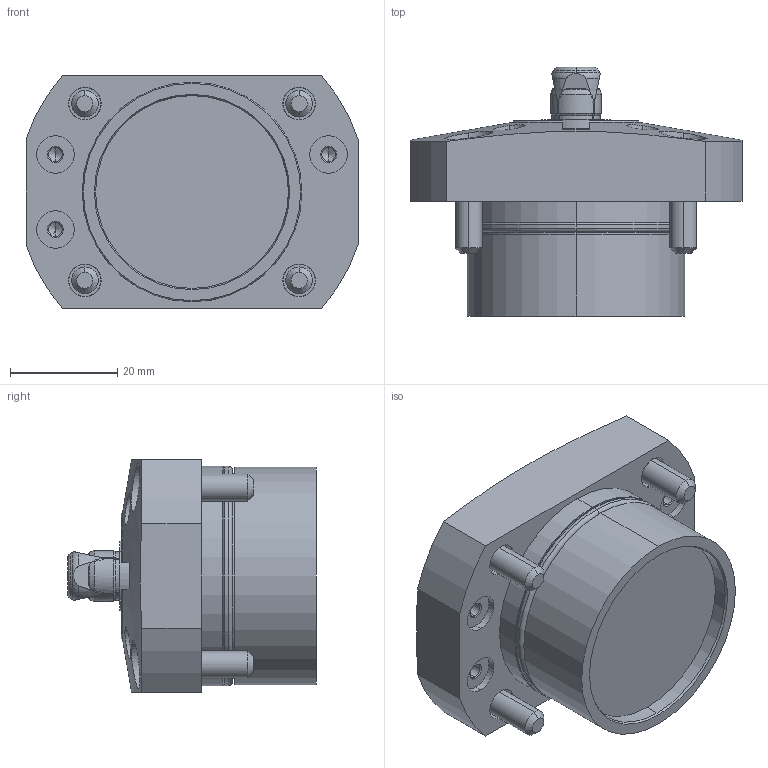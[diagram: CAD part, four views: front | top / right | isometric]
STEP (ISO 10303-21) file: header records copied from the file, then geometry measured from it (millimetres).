
FILE_DESCRIPTION (( 'STEP AP203' ), '1' );
FILE_NAME ('SFH2100.STEP', '2010-11-03T23:10:41', ( ' ' ), ( ' ' ), 'SwSTEP 2.0', 'SolidWorks 2010', '' );
FILE_SCHEMA (( 'CONFIG_CONTROL_DESIGN' ));
Length unit declared in the file: millimetre
Products named in the file (7): SFH2100_套菁轤礁诎蔬晅; 6妏寠晅无倌_M5_16; SFH2100; SFH2_钾堇轤O剌皋晅; φ10_ｽﾘｰﾌﾞ; 冇10_郫霓; 6妏寠晅无倌_M3_10
Assembly tree (12 placements, depth 2):
  SFH2100
    SFH2_钾堇轤O剌皋晅
    φ10_ｽﾘｰﾌﾞ
    6妏寠晅无倌_M3_10  x4
    6妏寠晅无倌_M5_16  x4
    冇10_郫霓
    SFH2100_套菁轤礁诎蔬晅
Bounding box: 62 x 46.5 x 43.5 mm (x, y, z)
Volume: 58490.8 mm3; surface area: 21108.8 mm2
Topology: 16 solids, 16 shells, 486 faces, 995 edges, 552 vertices
Faces by surface type: plane 191, cone 156, cylinder 122, torus 17
Entity records: 9927 total; most frequent: CARTESIAN_POINT 2368, DIRECTION 1482, ORIENTED_EDGE 1318, EDGE_CURVE 659, AXIS2_PLACEMENT_3D 614, VERTEX_POINT 402, EDGE_LOOP 341, ADVANCED_FACE 300
